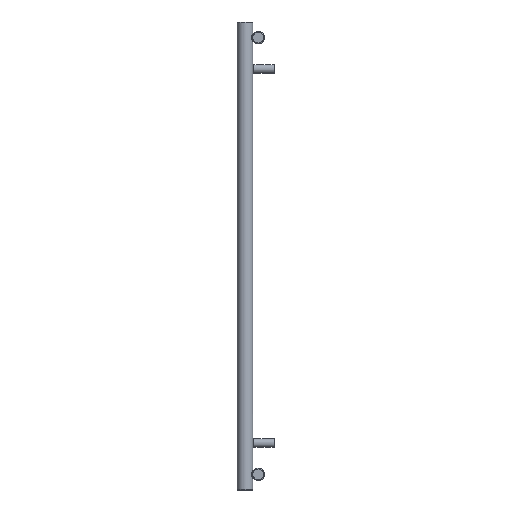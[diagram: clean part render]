
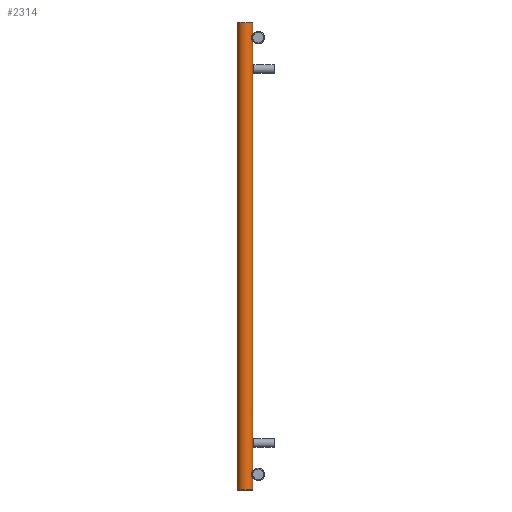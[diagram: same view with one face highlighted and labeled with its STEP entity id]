
A CAD part, left-side view. The second image highlights one B-rep face of the part: STEP entity #2314.
In plain terms, the highlighted cylindrical face has radius 20 mm (diameter 40 mm), a full revolution.
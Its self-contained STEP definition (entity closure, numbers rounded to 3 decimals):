
#174=FACE_BOUND('',#562,.T.);
#175=FACE_BOUND('',#563,.T.);
#215=LINE('',#3919,#292);
#292=VECTOR('',#2862,20.);
#369=CYLINDRICAL_SURFACE('',#2514,20.);
#404=FACE_OUTER_BOUND('',#561,.T.);
#561=EDGE_LOOP('',(#1607,#1608,#1609,#1610,#1611));
#562=EDGE_LOOP('',(#1612));
#563=EDGE_LOOP('',(#1613));
#750=B_SPLINE_CURVE_WITH_KNOTS('',3,(#3761,#3762,#3763,#3764,#3765,#3766,
#3767,#3768,#3769,#3770,#3771,#3772,#3773,#3774,#3775,#3776,#3777,#3778,
#3779,#3780),.UNSPECIFIED.,.T.,.F.,(4,1,1,1,1,1,1,1,1,1,1,1,1,1,1,1,1,4),
(-5.132,-4.765,-4.399,-3.91,
-3.788,-3.666,-3.421,-3.177,
-2.933,-2.444,-2.199,-1.955,
-1.711,-1.466,-1.1,-0.733,
-0.367,0.),.UNSPECIFIED.);
#757=B_SPLINE_CURVE_WITH_KNOTS('',3,(#3923,#3924,#3925,#3926,#3927,#3928,
#3929,#3930,#3931,#3932,#3933,#3934,#3935,#3936,#3937,#3938,#3939,#3940,
#3941,#3942),.UNSPECIFIED.,.T.,.F.,(4,1,1,1,1,1,1,1,1,1,1,1,1,1,1,1,1,4),
(-5.132,-4.765,-4.399,-3.91,
-3.788,-3.666,-3.421,-3.177,
-2.933,-2.444,-2.199,-1.955,-1.711,
-1.466,-1.1,-0.733,-0.367,
0.),.UNSPECIFIED.);
#817=CIRCLE('',#2515,20.);
#818=CIRCLE('',#2516,20.);
#819=CIRCLE('',#2517,20.);
#999=VERTEX_POINT('',#3738);
#1009=VERTEX_POINT('',#3915);
#1010=VERTEX_POINT('',#3916);
#1011=VERTEX_POINT('',#3918);
#1012=VERTEX_POINT('',#3922);
#1241=EDGE_CURVE('',#999,#999,#750,.T.);
#1251=EDGE_CURVE('',#1009,#1010,#817,.T.);
#1252=EDGE_CURVE('',#1009,#1011,#215,.T.);
#1253=EDGE_CURVE('',#1011,#1011,#818,.T.);
#1254=EDGE_CURVE('',#1010,#1009,#819,.T.);
#1255=EDGE_CURVE('',#1012,#1012,#757,.T.);
#1607=ORIENTED_EDGE('',*,*,#1251,.F.);
#1608=ORIENTED_EDGE('',*,*,#1252,.T.);
#1609=ORIENTED_EDGE('',*,*,#1253,.F.);
#1610=ORIENTED_EDGE('',*,*,#1252,.F.);
#1611=ORIENTED_EDGE('',*,*,#1254,.F.);
#1612=ORIENTED_EDGE('',*,*,#1255,.F.);
#1613=ORIENTED_EDGE('',*,*,#1241,.F.);
#2314=ADVANCED_FACE('',(#404,#174,#175),#369,.T.);
#2514=AXIS2_PLACEMENT_3D('',#3914,#2858,#2859);
#2515=AXIS2_PLACEMENT_3D('',#3917,#2860,#2861);
#2516=AXIS2_PLACEMENT_3D('',#3920,#2863,#2864);
#2517=AXIS2_PLACEMENT_3D('',#3921,#2865,#2866);
#2858=DIRECTION('center_axis',(0.,0.,1.));
#2859=DIRECTION('ref_axis',(-1.,0.,0.));
#2860=DIRECTION('center_axis',(0.,0.,1.));
#2861=DIRECTION('ref_axis',(-1.,0.,0.));
#2862=DIRECTION('',(0.,0.,-1.));
#2863=DIRECTION('center_axis',(0.,0.,-1.));
#2864=DIRECTION('ref_axis',(-1.,0.,0.));
#2865=DIRECTION('center_axis',(0.,0.,1.));
#2866=DIRECTION('ref_axis',(-1.,0.,0.));
#3738=CARTESIAN_POINT('',(-330.,-20.,50.1));
#3761=CARTESIAN_POINT('Ctrl Pts',(-330.,-20.,50.1));
#3762=CARTESIAN_POINT('Ctrl Pts',(-331.611,-20.,50.1));
#3763=CARTESIAN_POINT('Ctrl Pts',(-334.831,-19.609,49.581));
#3764=CARTESIAN_POINT('Ctrl Pts',(-339.316,-17.862,46.748));
#3765=CARTESIAN_POINT('Ctrl Pts',(-341.001,-16.692,42.52));
#3766=CARTESIAN_POINT('Ctrl Pts',(-340.992,-16.71,39.163));
#3767=CARTESIAN_POINT('Ctrl Pts',(-340.668,-16.917,36.969));
#3768=CARTESIAN_POINT('Ctrl Pts',(-339.648,-17.555,34.43));
#3769=CARTESIAN_POINT('Ctrl Pts',(-337.535,-18.589,32.082));
#3770=CARTESIAN_POINT('Ctrl Pts',(-333.836,-19.82,30.087));
#3771=CARTESIAN_POINT('Ctrl Pts',(-329.419,-20.202,29.641));
#3772=CARTESIAN_POINT('Ctrl Pts',(-325.239,-19.503,30.58));
#3773=CARTESIAN_POINT('Ctrl Pts',(-322.466,-18.591,32.084));
#3774=CARTESIAN_POINT('Ctrl Pts',(-320.351,-17.553,34.428));
#3775=CARTESIAN_POINT('Ctrl Pts',(-318.927,-16.66,37.981));
#3776=CARTESIAN_POINT('Ctrl Pts',(-318.921,-16.659,42.598));
#3777=CARTESIAN_POINT('Ctrl Pts',(-321.137,-18.052,47.027));
#3778=CARTESIAN_POINT('Ctrl Pts',(-325.165,-19.6,49.585));
#3779=CARTESIAN_POINT('Ctrl Pts',(-328.389,-20.,50.1));
#3780=CARTESIAN_POINT('Ctrl Pts',(-330.,-20.,50.1));
#3914=CARTESIAN_POINT('Origin',(-330.,0.,0.));
#3915=CARTESIAN_POINT('',(-310.,0.,1198.));
#3916=CARTESIAN_POINT('',(-350.,0.,1198.));
#3917=CARTESIAN_POINT('Origin',(-330.,0.,1198.));
#3918=CARTESIAN_POINT('',(-310.,0.,2.));
#3919=CARTESIAN_POINT('',(-310.,0.,0.));
#3920=CARTESIAN_POINT('Origin',(-330.,0.,2.));
#3921=CARTESIAN_POINT('Origin',(-330.,0.,1198.));
#3922=CARTESIAN_POINT('',(-330.,-20.,1170.1));
#3923=CARTESIAN_POINT('Ctrl Pts',(-330.,-20.,1170.1));
#3924=CARTESIAN_POINT('Ctrl Pts',(-331.611,-20.,1170.1));
#3925=CARTESIAN_POINT('Ctrl Pts',(-334.831,-19.609,1169.581));
#3926=CARTESIAN_POINT('Ctrl Pts',(-339.316,-17.862,1166.749));
#3927=CARTESIAN_POINT('Ctrl Pts',(-341.002,-16.691,1162.521));
#3928=CARTESIAN_POINT('Ctrl Pts',(-340.992,-16.709,1159.164));
#3929=CARTESIAN_POINT('Ctrl Pts',(-340.668,-16.917,1156.97));
#3930=CARTESIAN_POINT('Ctrl Pts',(-339.649,-17.554,1154.431));
#3931=CARTESIAN_POINT('Ctrl Pts',(-337.536,-18.588,1152.082));
#3932=CARTESIAN_POINT('Ctrl Pts',(-333.836,-19.819,1150.088));
#3933=CARTESIAN_POINT('Ctrl Pts',(-329.419,-20.201,1149.641));
#3934=CARTESIAN_POINT('Ctrl Pts',(-325.24,-19.502,1150.581));
#3935=CARTESIAN_POINT('Ctrl Pts',(-322.467,-18.59,1152.084));
#3936=CARTESIAN_POINT('Ctrl Pts',(-320.351,-17.552,1154.428));
#3937=CARTESIAN_POINT('Ctrl Pts',(-318.927,-16.659,1157.981));
#3938=CARTESIAN_POINT('Ctrl Pts',(-318.921,-16.659,1162.599));
#3939=CARTESIAN_POINT('Ctrl Pts',(-321.137,-18.052,1167.028));
#3940=CARTESIAN_POINT('Ctrl Pts',(-325.165,-19.6,1169.585));
#3941=CARTESIAN_POINT('Ctrl Pts',(-328.389,-20.,1170.1));
#3942=CARTESIAN_POINT('Ctrl Pts',(-330.,-20.,1170.1));
